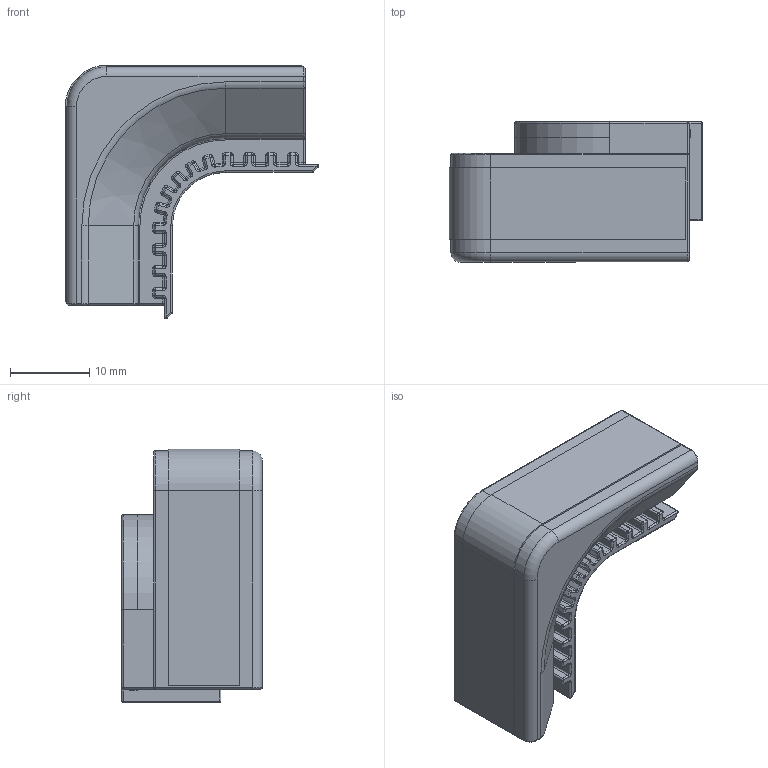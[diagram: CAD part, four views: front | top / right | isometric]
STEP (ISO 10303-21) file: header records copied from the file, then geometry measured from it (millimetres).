
FILE_DESCRIPTION (( 'STEP AP203' ), '1' );
FILE_NAME ('Razor V4.1 - Handleless Profile - Int Corner - V2.STEP', '2024-05-23T12:45:49', ( '' ), ( '' ), 'SwSTEP 2.0', 'SolidWorks 2020', '' );
FILE_SCHEMA (( 'CONFIG_CONTROL_DESIGN' ));
Length unit declared in the file: millimetre
Products named in the file (1): Razor V4.1 - Handleless Profile - Int Corner - V2
Bounding box: 31.92 x 17.7 x 31.92 mm (x, y, z)
Volume: 2530.1 mm3; surface area: 4982.8 mm2
Topology: 1 solids, 1 shells, 490 faces, 1144 edges, 588 vertices
Faces by surface type: cylinder 227, torus 115, plane 78, sphere 68, cone 2
Entity records: 13336 total; most frequent: DIRECTION 2681, CARTESIAN_POINT 2155, ORIENTED_EDGE 2152, AXIS2_PLACEMENT_3D 1114, EDGE_CURVE 1076, CIRCLE 623, VERTEX_POINT 588, EDGE_LOOP 490
